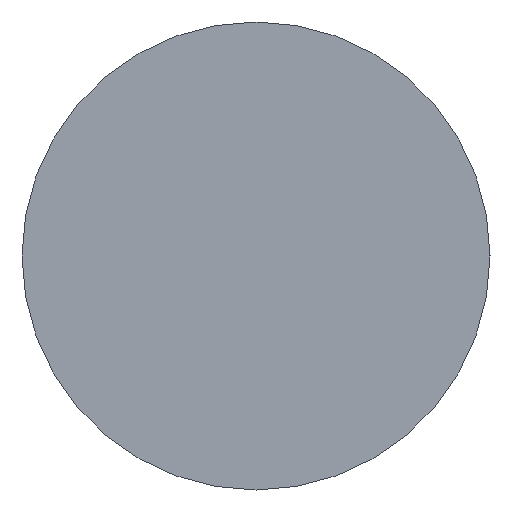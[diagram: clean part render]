
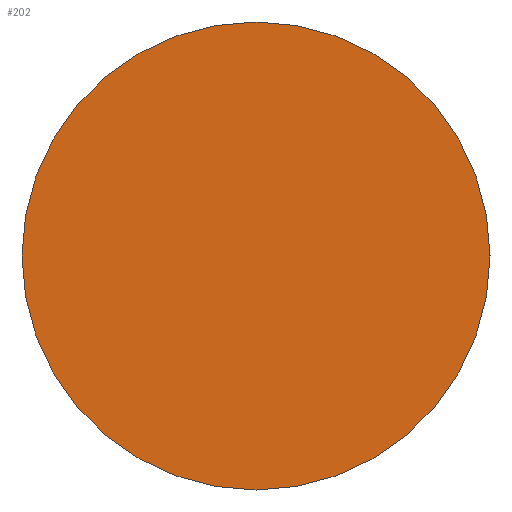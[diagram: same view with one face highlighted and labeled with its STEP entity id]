
A CAD part, left-side view. The second image highlights one B-rep face of the part: STEP entity #202.
In plain terms, the highlighted planar face has unit normal (-1, 0, 0).
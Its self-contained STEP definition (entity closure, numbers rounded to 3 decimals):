
#2 = EDGE_CURVE ( 'NONE', #145, #158, #122, .T. ) ;
#10 = DIRECTION ( 'NONE',  ( 1., 0., 0. ) ) ;
#18 = DIRECTION ( 'NONE',  ( 1., 0., 0. ) ) ;
#28 = ORIENTED_EDGE ( 'NONE', *, *, #74, .F. ) ;
#31 = DIRECTION ( 'NONE',  ( 0., 1., 0. ) ) ;
#37 = FACE_OUTER_BOUND ( 'NONE', #199, .T. ) ;
#38 = AXIS2_PLACEMENT_3D ( 'NONE', #150, #18, #41 ) ;
#41 = DIRECTION ( 'NONE',  ( 0., 1., 0. ) ) ;
#50 = ORIENTED_EDGE ( 'NONE', *, *, #2, .F. ) ;
#72 = DIRECTION ( 'NONE',  ( -1., 0., 0. ) ) ;
#74 = EDGE_CURVE ( 'NONE', #158, #145, #186, .T. ) ;
#76 = AXIS2_PLACEMENT_3D ( 'NONE', #138, #10, #31 ) ;
#122 = CIRCLE ( 'NONE', #38, 5. ) ;
#138 = CARTESIAN_POINT ( 'NONE',  ( 0., 0., 0. ) ) ;
#145 = VERTEX_POINT ( 'NONE', #249 ) ;
#150 = CARTESIAN_POINT ( 'NONE',  ( 0., 0., 0. ) ) ;
#158 = VERTEX_POINT ( 'NONE', #166 ) ;
#166 = CARTESIAN_POINT ( 'NONE',  ( 0., -5., 0. ) ) ;
#167 = DIRECTION ( 'NONE',  ( 0., -1., 0. ) ) ;
#174 = PLANE ( 'NONE',  #237 ) ;
#186 = CIRCLE ( 'NONE', #76, 5. ) ;
#199 = EDGE_LOOP ( 'NONE', ( #50, #28 ) ) ;
#202 = ADVANCED_FACE ( 'NONE', ( #37 ), #174, .T. ) ;
#212 = CARTESIAN_POINT ( 'NONE',  ( 0., 0., 0. ) ) ;
#237 = AXIS2_PLACEMENT_3D ( 'NONE', #212, #72, #167 ) ;
#249 = CARTESIAN_POINT ( 'NONE',  ( 0., 5., 0. ) ) ;
